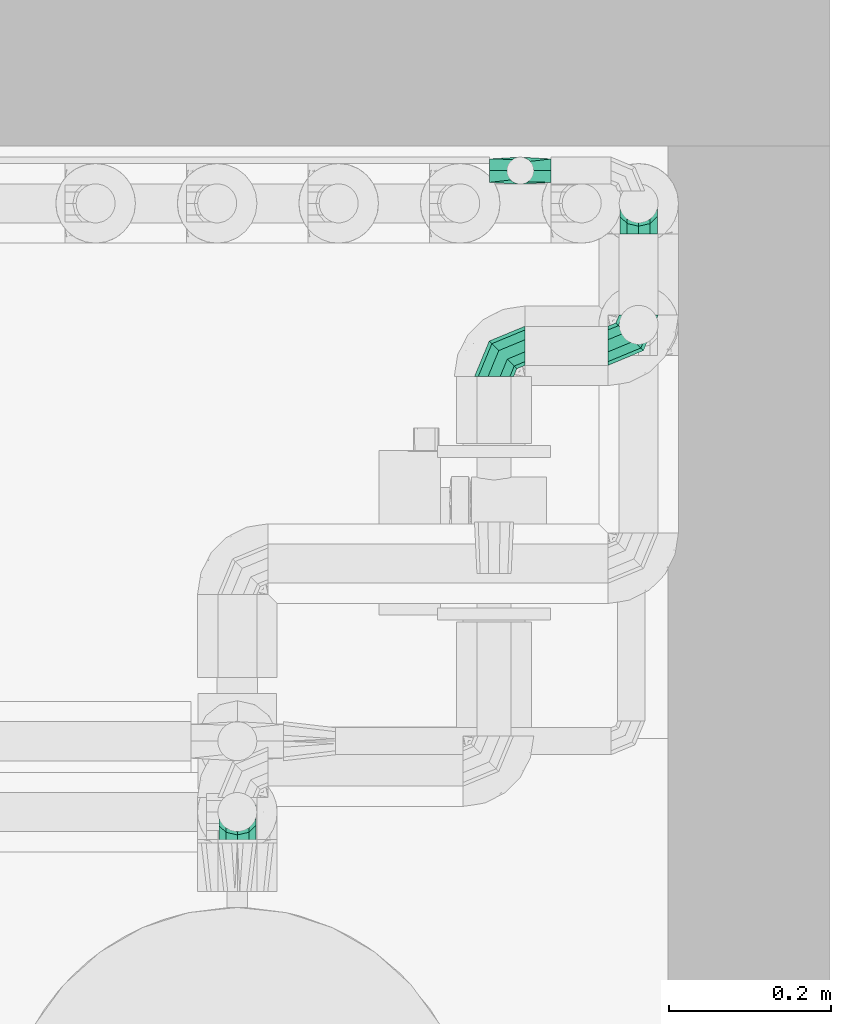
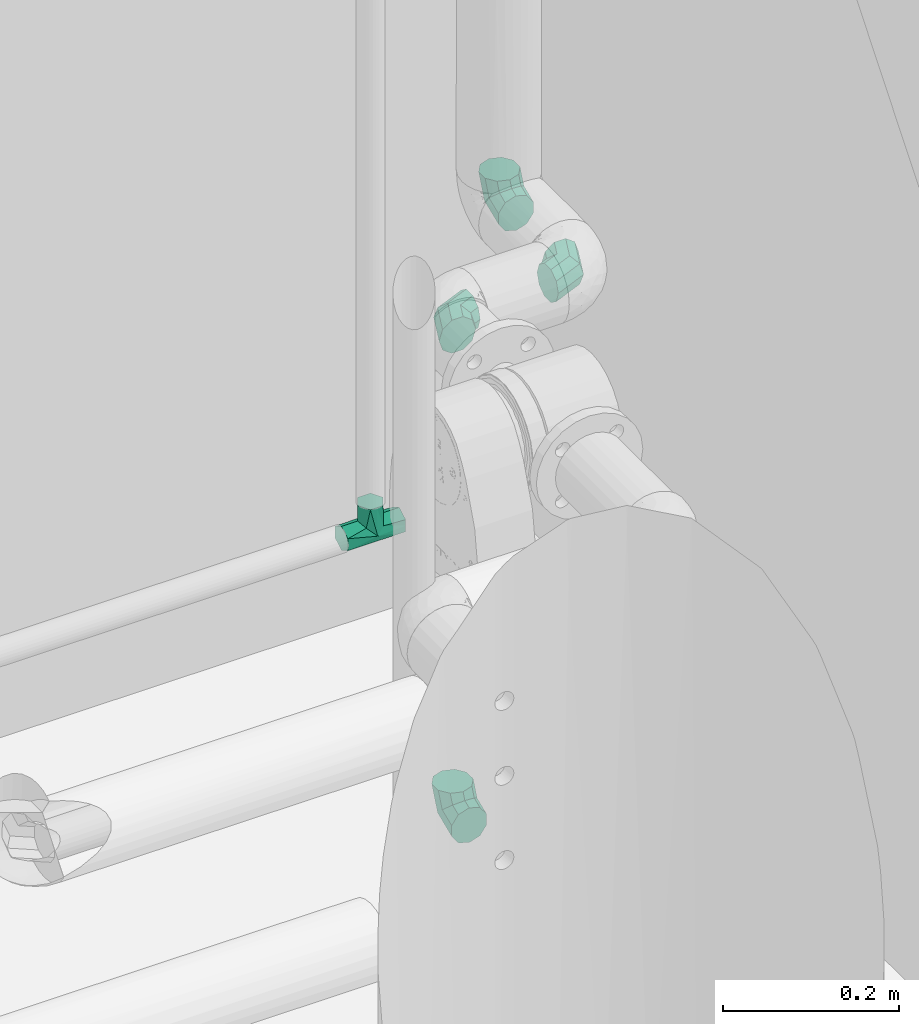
# One storey, part 94 of 94: 5 flow fittings.
"""IFC2X3 building model written with IfcOpenShell, lengths in millimetres."""

from ifc_helpers import new_model, entity, si_unit, converted_unit, derived_unit, direction, frame, origin, place, context, subcontext, project, spatial, faceted_brep, source, transform, mapped, material, type_object, type_shapes, element, save


model = new_model("IFC2X3")

# Units and contexts
model_context = context("Model", 3, precision=0.01, world=origin(), true_north=direction((6.123031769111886e-17, 1.0)))
body_context = subcontext(model_context, "Body", "Model", "MODEL_VIEW")
ifc_project = project(units=[si_unit("LENGTHUNIT", "METRE", prefix="MILLI"), si_unit("AREAUNIT", "SQUARE_METRE"), si_unit("VOLUMEUNIT", "CUBIC_METRE"), converted_unit("PLANEANGLEUNIT", "DEGREE", entity("IfcRatioMeasure", 0.017453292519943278), si_unit("PLANEANGLEUNIT", "RADIAN"), dimensions=[0, 0, 0, 0, 0, 0, 0]), si_unit("MASSUNIT", "GRAM", prefix="KILO"), derived_unit("MASSDENSITYUNIT", [(si_unit("MASSUNIT", "GRAM", prefix="KILO"), 1), (si_unit("LENGTHUNIT", "METRE"), -3)]), derived_unit("IONCONCENTRATIONUNIT", [(si_unit("MASSUNIT", "GRAM", prefix="KILO"), 1), (si_unit("LENGTHUNIT", "METRE"), -3)]), derived_unit("MOMENTOFINERTIAUNIT", [(si_unit("LENGTHUNIT", "METRE"), 4)]), si_unit("TIMEUNIT", "SECOND"), si_unit("FREQUENCYUNIT", "HERTZ"), si_unit("THERMODYNAMICTEMPERATUREUNIT", "DEGREE_CELSIUS"), derived_unit("THERMALTRANSMITTANCEUNIT", [(si_unit("MASSUNIT", "GRAM", prefix="KILO"), 1), (si_unit("THERMODYNAMICTEMPERATUREUNIT", "KELVIN"), -1), (si_unit("TIMEUNIT", "SECOND"), -3)]), derived_unit("THERMALCONDUCTANCEUNIT", [(si_unit("MASSUNIT", "GRAM", prefix="KILO"), 1), (si_unit("THERMODYNAMICTEMPERATUREUNIT", "KELVIN"), -1), (si_unit("TIMEUNIT", "SECOND"), -3), (si_unit("LENGTHUNIT", "METRE"), 1)]), derived_unit("VOLUMETRICFLOWRATEUNIT", [(si_unit("LENGTHUNIT", "METRE"), 3), (si_unit("TIMEUNIT", "SECOND"), -1)]), derived_unit("MASSFLOWRATEUNIT", [(si_unit("MASSUNIT", "GRAM", prefix="KILO"), 1), (si_unit("TIMEUNIT", "SECOND"), -1)]), derived_unit("ROTATIONALFREQUENCYUNIT", [(si_unit("TIMEUNIT", "SECOND"), -1)]), si_unit("ELECTRICCURRENTUNIT", "AMPERE"), si_unit("ELECTRICVOLTAGEUNIT", "VOLT"), si_unit("POWERUNIT", "WATT"), si_unit("FORCEUNIT", "NEWTON", prefix="KILO"), si_unit("ILLUMINANCEUNIT", "LUX"), si_unit("LUMINOUSFLUXUNIT", "LUMEN"), si_unit("LUMINOUSINTENSITYUNIT", "CANDELA"), derived_unit("USERDEFINED", [(si_unit("MASSUNIT", "GRAM", prefix="KILO"), -1), (si_unit("LENGTHUNIT", "METRE"), -2), (si_unit("TIMEUNIT", "SECOND"), 3), (si_unit("LUMINOUSFLUXUNIT", "LUMEN"), 1)]), derived_unit("USERDEFINED", [(si_unit("MASSUNIT", "GRAM", prefix="KILO"), 1), (si_unit("TIMEUNIT", "SECOND"), -3), (si_unit("LENGTHUNIT", "METRE"), 3), (si_unit("ELECTRICCURRENTUNIT", "AMPERE"), -2)]), derived_unit("SOUNDPOWERUNIT", [(si_unit("MASSUNIT", "GRAM", prefix="KILO"), 1), (si_unit("TIMEUNIT", "SECOND"), -3), (si_unit("LENGTHUNIT", "METRE"), 2)]), derived_unit("SOUNDPRESSUREUNIT", [(si_unit("MASSUNIT", "GRAM", prefix="KILO"), 1), (si_unit("LENGTHUNIT", "METRE"), -1), (si_unit("TIMEUNIT", "SECOND"), -2)]), derived_unit("LINEARVELOCITYUNIT", [(si_unit("LENGTHUNIT", "METRE"), 1), (si_unit("TIMEUNIT", "SECOND"), -1)]), si_unit("PRESSUREUNIT", "PASCAL"), derived_unit("USERDEFINED", [(si_unit("MASSUNIT", "GRAM", prefix="KILO"), 1), (si_unit("LENGTHUNIT", "METRE"), -2), (si_unit("TIMEUNIT", "SECOND"), -2)]), derived_unit("LINEARFORCEUNIT", [(si_unit("MASSUNIT", "GRAM", prefix="KILO"), 1), (si_unit("TIMEUNIT", "SECOND"), -2)]), derived_unit("PLANARFORCEUNIT", [(si_unit("MASSUNIT", "GRAM", prefix="KILO"), 1), (si_unit("LENGTHUNIT", "METRE"), -1), (si_unit("TIMEUNIT", "SECOND"), -2)]), derived_unit("SPECIFICHEATCAPACITYUNIT", [(si_unit("THERMODYNAMICTEMPERATUREUNIT", "KELVIN"), -1), (si_unit("LENGTHUNIT", "METRE"), 2), (si_unit("TIMEUNIT", "SECOND"), -2)]), derived_unit("HEATINGVALUEUNIT", [(si_unit("LENGTHUNIT", "METRE"), 2), (si_unit("TIMEUNIT", "SECOND"), -2)]), derived_unit("VAPORPERMEABILITYUNIT", [(si_unit("LENGTHUNIT", "METRE"), -1), (si_unit("TIMEUNIT", "SECOND"), 1)]), derived_unit("DYNAMICVISCOSITYUNIT", [(si_unit("MASSUNIT", "GRAM", prefix="KILO"), 1), (si_unit("TIMEUNIT", "SECOND"), -1), (si_unit("LENGTHUNIT", "METRE"), -1)]), derived_unit("THERMALEXPANSIONCOEFFICIENTUNIT", [(si_unit("THERMODYNAMICTEMPERATUREUNIT", "KELVIN"), -1)]), derived_unit("MODULUSOFELASTICITYUNIT", [(si_unit("MASSUNIT", "GRAM", prefix="KILO"), 1), (si_unit("LENGTHUNIT", "METRE"), -1), (si_unit("TIMEUNIT", "SECOND"), -2)]), derived_unit("ISOTHERMALMOISTURECAPACITYUNIT", [(si_unit("LENGTHUNIT", "METRE"), 3), (si_unit("MASSUNIT", "GRAM", prefix="KILO"), -1)]), derived_unit("MOISTUREDIFFUSIVITYUNIT", [(si_unit("TIMEUNIT", "SECOND"), -1), (si_unit("LENGTHUNIT", "METRE"), 2)])], contexts=[model_context])

# Site, building, storey
site_placement = place(None, origin())
site = spatial("IfcSite", under=ifc_project, at=site_placement, Name="Default", CompositionType="ELEMENT")
building_placement = place(site_placement, origin())
building = spatial("IfcBuilding", under=site, at=building_placement, CompositionType="ELEMENT")
storey_placement = place(building_placement, origin())
storey = spatial("IfcBuildingStorey", under=building, at=storey_placement, Name="Niveau 0", CompositionType="ELEMENT", Elevation=0.0)

# Flow fittings
ifc_material = material(Name="<Unnamed>")
pipe_fitting_type_1 = type_object("IfcPipeFittingType", Name="Coude - Générique:Standard", PredefinedType="NOTDEFINED", material=ifc_material)
shared_shape_1 = source(origin(), body_context, "Body", "Brep", [
    faceted_brep([(5.947327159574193, -5.948105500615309, 0.0), (2.6861946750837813, -2.686546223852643, -14.195013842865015), (19.54273307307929, 37.99744288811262, -14.195013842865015), (24.154972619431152, 37.996839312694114, 0.0), (-5.8515610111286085, 5.8523268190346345, -22.968014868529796), (7.467733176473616, 37.999023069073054, -22.968014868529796), (-16.4048074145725, 16.40695435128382, -22.96801486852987), (-7.457787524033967, 38.000976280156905, -22.96801486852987), (-24.942563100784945, 24.945827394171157, -14.195013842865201), (-19.532787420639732, 38.002556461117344, -14.195013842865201), (-28.203695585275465, 28.20738667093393, 0.0), (-24.145026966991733, 38.00316003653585, 0.0), (-24.942563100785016, 24.94582739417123, 14.195013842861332), (-19.53278742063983, 38.002556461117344, 14.195013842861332), (-16.40480741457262, 16.40695435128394, 22.968014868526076), (-7.457787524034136, 38.000976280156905, 22.968014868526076), (-5.851561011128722, 5.852326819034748, 22.968014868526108), (7.467733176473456, 37.999023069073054, 22.968014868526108), (2.6861946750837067, -2.686546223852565, 14.195013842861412), (19.542733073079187, 37.99744288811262, 14.195013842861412), (-38.0, -24.150000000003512, 0.0), (-38.0, -19.53776041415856, -14.195013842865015), (-38.0, -7.462760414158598, -22.968014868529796), (-38.0, 7.462760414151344, -22.96801486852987), (-38.0, 19.537760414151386, -14.195013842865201), (-38.0, 24.14999999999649, 0.0), (-38.0, 19.537760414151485, 14.195013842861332), (-38.0, 7.462760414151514, 22.968014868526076), (-38.0, -7.4627604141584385, 22.968014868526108), (-38.0, -19.537760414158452, 14.195013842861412)], [[[0, 1, 2, 3]], [[1, 4, 5, 2]], [[4, 6, 7, 5]], [[6, 8, 9, 7]], [[8, 10, 11, 9]], [[10, 12, 13, 11]], [[12, 14, 15, 13]], [[14, 16, 17, 15]], [[16, 18, 19, 17]], [[18, 0, 3, 19]], [[20, 21, 1, 0]], [[21, 22, 4, 1]], [[22, 23, 6, 4]], [[23, 24, 8, 6]], [[24, 25, 10, 8]], [[25, 26, 12, 10]], [[26, 27, 14, 12]], [[27, 28, 16, 14]], [[28, 29, 18, 16]], [[29, 20, 0, 18]], [[3, 2, 5, 7, 9, 11, 13, 15, 17, 19]], [[29, 28, 27, 26, 25, 24, 23, 22, 21, 20]]]),
])
type_shapes(pipe_fitting_type_1, [shared_shape_1])
flow_fitting_1_placement = place(storey_placement, frame((-6284.234460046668, 9275.477679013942, 357.8782212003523), z_axis=(1.0, 0.0, 0.0), x_axis=(0.0, 0.9999999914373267, 0.00013086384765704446)))
element("IfcFlowFitting", 1, at=flow_fitting_1_placement, inside=storey, type_object=pipe_fitting_type_1, material=ifc_material, Name="Coude - Générique:Standard", ObjectType="Coude - Générique:Standard", context=body_context, shape_type="MappedRepresentation", body=[
    mapped(shared_shape_1, transform((0.0, 0.0, 0.0), scale=1.0)),
])
pipe_fitting_type_2 = type_object("IfcPipeFittingType", Name="Coude - Générique:Standard", PredefinedType="NOTDEFINED", material=ifc_material)
shared_shape_2 = source(origin(), body_context, "Body", "Brep", [
    faceted_brep([(5.946724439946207, -5.946770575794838, 0.0), (2.6853912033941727, -2.68541203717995, -14.195013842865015), (19.538055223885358, 37.999848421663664, -14.195013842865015), (24.15029480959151, 37.99981263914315, 0.0), (-5.852890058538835, 5.852935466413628, -22.968014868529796), (7.463055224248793, 37.99994210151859, -22.968014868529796), (-16.406786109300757, 16.40691339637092, -22.96801486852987), (-7.462465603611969, 38.000057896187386, -22.96801486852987), (-24.945067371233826, 24.94526089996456, -14.195013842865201), (-19.537465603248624, 38.00015157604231, -14.195013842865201), (-28.206400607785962, 28.206619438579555, 0.0), (-24.14970518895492, 38.000187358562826, 0.0), (-24.945067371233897, 24.94526089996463, 14.195013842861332), (-19.537465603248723, 38.00015157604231, 14.195013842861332), (-16.406786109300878, 16.406913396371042, 22.968014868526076), (-7.462465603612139, 38.000057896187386, 22.968014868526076), (-5.852890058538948, 5.852935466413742, 22.968014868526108), (7.463055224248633, 37.99994210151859, 22.968014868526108), (2.685391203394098, -2.6854120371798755, 14.195013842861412), (19.538055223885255, 37.999848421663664, 14.195013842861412), (-38.0, -24.150000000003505, 0.0), (-38.0, -19.53776041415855, -14.195013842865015), (-38.0, -7.462760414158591, -22.968014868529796), (-38.0, 7.462760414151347, -22.96801486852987), (-38.0, 19.537760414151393, -14.195013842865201), (-38.0, 24.149999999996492, 0.0), (-38.0, 19.537760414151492, 14.195013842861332), (-38.0, 7.462760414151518, 22.968014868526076), (-38.0, -7.462760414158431, 22.968014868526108), (-38.0, -19.537760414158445, 14.195013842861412)], [[[0, 1, 2, 3]], [[1, 4, 5, 2]], [[4, 6, 7, 5]], [[6, 8, 9, 7]], [[8, 10, 11, 9]], [[10, 12, 13, 11]], [[12, 14, 15, 13]], [[14, 16, 17, 15]], [[16, 18, 19, 17]], [[18, 0, 3, 19]], [[20, 21, 1, 0]], [[21, 22, 4, 1]], [[22, 23, 6, 4]], [[23, 24, 8, 6]], [[24, 25, 10, 8]], [[25, 26, 12, 10]], [[26, 27, 14, 12]], [[27, 28, 16, 14]], [[28, 29, 18, 16]], [[29, 20, 0, 18]], [[3, 2, 5, 7, 9, 11, 13, 15, 17, 19]], [[29, 28, 27, 26, 25, 24, 23, 22, 21, 20]]]),
])
type_shapes(pipe_fitting_type_2, [shared_shape_2])
flow_fitting_2_placement = place(storey_placement, frame((-5788.884962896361, 10026.846494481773, 578.8746030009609), z_axis=(-1.0, 9.83538293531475e-07, -7.677721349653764e-06), x_axis=(7.677721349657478e-06, 0.0, -1.0)))
element("IfcFlowFitting", 2, at=flow_fitting_2_placement, inside=storey, type_object=pipe_fitting_type_2, material=ifc_material, Name="Coude - Générique:Standard", ObjectType="Coude - Générique:Standard", context=body_context, shape_type="MappedRepresentation", body=[
    mapped(shared_shape_2, transform((0.0, 0.0, 0.0), scale=1.0)),
])
pipe_fitting_type_3 = type_object("IfcPipeFittingType", Name="Coude - Générique:Standard", PredefinedType="NOTDEFINED", material=ifc_material)
shared_shape_3 = source(origin(), body_context, "Body", "Brep", [
    faceted_brep([(5.9466856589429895, -5.946684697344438, 0.0), (2.6853395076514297, -2.6853390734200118, -14.195013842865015), (19.53775426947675, 38.0000031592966, -14.195013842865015), (24.14999385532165, 38.00000390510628, 0.0), (-5.8529755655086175, 5.85297461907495, -22.968014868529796), (7.462754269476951, 38.000001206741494, -22.968014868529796), (-16.406913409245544, 16.406910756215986, -22.96801486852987), (-7.4627665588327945, 37.99999879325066, -22.96801486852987), (-24.945228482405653, 24.945224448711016, -14.195013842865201), (-19.537766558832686, 37.99999684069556, -14.195013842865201), (-28.206574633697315, 28.206570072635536, 0.0), (-24.150006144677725, 37.99999609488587, 0.0), (-24.94522848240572, 24.945224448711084, 14.195013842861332), (-19.537766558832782, 37.99999684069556, 14.195013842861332), (-16.406913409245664, 16.406910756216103, 22.968014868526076), (-7.462766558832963, 37.99999879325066, 22.968014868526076), (-5.852975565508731, 5.852974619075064, 22.968014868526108), (7.462754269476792, 38.000001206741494, 22.968014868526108), (2.6853395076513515, -2.685339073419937, 14.195013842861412), (19.537754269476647, 38.0000031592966, 14.195013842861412), (-38.0, -24.15000000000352, 0.0), (-38.0, -19.53776041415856, -14.195013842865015), (-38.0, -7.462760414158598, -22.968014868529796), (-38.0, 7.462760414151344, -22.96801486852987), (-38.0, 19.537760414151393, -14.195013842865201), (-38.0, 24.149999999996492, 0.0), (-38.0, 19.537760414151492, 14.195013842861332), (-38.0, 7.462760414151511, 22.968014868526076), (-38.0, -7.4627604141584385, 22.968014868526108), (-38.0, -19.537760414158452, 14.195013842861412)], [[[0, 1, 2, 3]], [[1, 4, 5, 2]], [[4, 6, 7, 5]], [[6, 8, 9, 7]], [[8, 10, 11, 9]], [[10, 12, 13, 11]], [[12, 14, 15, 13]], [[14, 16, 17, 15]], [[16, 18, 19, 17]], [[18, 0, 3, 19]], [[20, 21, 1, 0]], [[21, 22, 4, 1]], [[22, 23, 6, 4]], [[23, 24, 8, 6]], [[24, 25, 10, 8]], [[25, 26, 12, 10]], [[26, 27, 14, 12]], [[27, 28, 16, 14]], [[28, 29, 18, 16]], [[29, 20, 0, 18]], [[3, 2, 5, 7, 9, 11, 13, 15, 17, 19]], [[29, 28, 27, 26, 25, 24, 23, 22, 21, 20]]]),
])
type_shapes(pipe_fitting_type_3, [shared_shape_3])
flow_fitting_3_placement = place(storey_placement, frame((-5788.884978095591, 9850.970439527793, 578.8725052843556), z_axis=(0.00011396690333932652, -7.75815515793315e-06, 0.999999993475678), x_axis=(0.9999999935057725, 0.0, -0.0001139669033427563)))
element("IfcFlowFitting", 3, at=flow_fitting_3_placement, inside=storey, type_object=pipe_fitting_type_3, material=ifc_material, Name="Coude - Générique:Standard", ObjectType="Coude - Générique:Standard", context=body_context, shape_type="MappedRepresentation", body=[
    mapped(shared_shape_3, transform((0.0, 0.0, 0.0), scale=1.0)),
])
pipe_fitting_type_4 = type_object("IfcPipeFittingType", Name="Coude - Générique:Standard", PredefinedType="NOTDEFINED", material=ifc_material)
shared_shape_4 = source(origin(), body_context, "Body", "Brep", [
    faceted_brep([(5.946682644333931, -5.9466780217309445, 0.0), (2.6853354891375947, -2.6853334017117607, -14.195013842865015), (19.537730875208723, 38.0000151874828, -14.195013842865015), (24.14997046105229, 38.00001877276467, 0.0), (-5.852982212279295, 5.852977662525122, -22.968014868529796), (7.462730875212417, 38.00000580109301, -22.968014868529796), (-16.406923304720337, 16.406910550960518, -22.96801486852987), (-7.462789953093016, 37.99999419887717, -22.96801486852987), (-24.945241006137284, 24.945221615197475, -14.195013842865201), (-19.53778995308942, 37.99998481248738, -14.195013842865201), (-28.206588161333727, 28.20656623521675, 0.0), (-24.150029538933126, 37.99998122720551, 0.0), (-24.94524100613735, 24.945221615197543, 14.195013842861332), (-19.537789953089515, 37.99998481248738, 14.195013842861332), (-16.406923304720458, 16.40691055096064, 22.968014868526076), (-7.462789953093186, 37.99999419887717, 22.968014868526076), (-5.8529822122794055, 5.852977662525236, 22.968014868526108), (7.462730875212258, 38.00000580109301, 22.968014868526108), (2.68533548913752, -2.685333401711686, 14.195013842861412), (19.53773087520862, 38.0000151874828, 14.195013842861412), (-38.0, -24.150000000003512, 0.0), (-38.0, -19.53776041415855, -14.195013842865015), (-38.0, -7.462760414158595, -22.968014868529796), (-38.0, 7.462760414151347, -22.96801486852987), (-38.0, 19.537760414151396, -14.195013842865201), (-38.0, 24.1499999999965, 0.0), (-38.0, 19.537760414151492, 14.195013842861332), (-38.0, 7.462760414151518, 22.968014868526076), (-38.0, -7.462760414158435, 22.968014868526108), (-38.0, -19.537760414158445, 14.195013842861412)], [[[0, 1, 2, 3]], [[1, 4, 5, 2]], [[4, 6, 7, 5]], [[6, 8, 9, 7]], [[8, 10, 11, 9]], [[10, 12, 13, 11]], [[12, 14, 15, 13]], [[14, 16, 17, 15]], [[16, 18, 19, 17]], [[18, 0, 3, 19]], [[20, 21, 1, 0]], [[21, 22, 4, 1]], [[22, 23, 6, 4]], [[23, 24, 8, 6]], [[24, 25, 10, 8]], [[25, 26, 12, 10]], [[26, 27, 14, 12]], [[27, 28, 16, 14]], [[28, 29, 18, 16]], [[29, 20, 0, 18]], [[3, 2, 5, 7, 9, 11, 13, 15, 17, 19]], [[29, 28, 27, 26, 25, 24, 23, 22, 21, 20]]]),
])
type_shapes(pipe_fitting_type_4, [shared_shape_4])
flow_fitting_4_placement = place(storey_placement, frame((-5967.407473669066, 9850.970439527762, 578.892850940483), z_axis=(0.00011396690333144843, 0.0, 0.9999999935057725), x_axis=(-0.9999999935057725, 0.0, 0.00011396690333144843)))
element("IfcFlowFitting", 4, at=flow_fitting_4_placement, inside=storey, type_object=pipe_fitting_type_4, material=ifc_material, Name="Coude - Générique:Standard", ObjectType="Coude - Générique:Standard", context=body_context, shape_type="MappedRepresentation", body=[
    mapped(shared_shape_4, transform((0.0, 0.0, 0.0), scale=1.0)),
])
pipe_fitting_type_5 = type_object("IfcPipeFittingType", Name="Té - Générique:Standard", PredefinedType="NOTDEFINED", material=ifc_material)
shared_shape_5 = source(origin(), body_context, "Body", "Brep", [
    faceted_brep([(-38.0, 8.34999999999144, 14.462624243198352), (-38.0, 12.524999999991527, 7.231312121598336), (-38.0, 16.699999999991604, 0.0), (-38.0, 12.524999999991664, -7.231312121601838), (-38.0, 8.349999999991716, -14.46262424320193), (-38.0, 0.0, -14.462624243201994), (-38.0, -8.350000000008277, -14.46262424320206), (-38.0, -12.525000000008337, -7.231312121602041), (-38.0, -16.700000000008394, 0.0), (-38.0, -14.612500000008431, 3.615656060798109), (-38.0, -12.52500000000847, 7.231312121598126), (-38.0, -8.350000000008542, 14.462624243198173), (-38.0, 0.0, 14.462624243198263), (38.0, 0.0, -14.462624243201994), (38.0, 8.349999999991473, -14.46262424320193), (38.0, 12.957343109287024, -6.4824718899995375), (38.0, 16.699999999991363, 0.0), (38.0, 12.524999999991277, 7.2313121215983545), (38.0, 8.349999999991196, 14.462624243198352), (38.0, 0.0, 14.462624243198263), (38.0, -8.350000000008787, 14.462624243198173), (38.0, -12.525000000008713, 7.231312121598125), (38.0, -16.700000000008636, 0.0), (38.0, -14.612500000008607, -3.6156560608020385), (38.0, -12.525000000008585, -7.23131212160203), (38.0, -8.350000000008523, -14.46262424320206), (14.40915064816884, -14.409150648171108, 5.74536277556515), (12.118301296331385, -12.118301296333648, 11.49072555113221), (0.0, 0.0, 16.699999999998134), (-13.186617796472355, -13.18661779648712, 6.620121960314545), (-9.360037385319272, -9.360037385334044, 13.830390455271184), (16.700000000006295, -16.70000000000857, 0.0), (-16.699999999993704, -16.700000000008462, 0.0), (-13.030018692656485, -13.030018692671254, 6.915195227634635), (13.186617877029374, -13.186617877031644, -6.620121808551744), (13.030018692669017, -13.030018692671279, -6.9151952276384), (9.360037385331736, -9.360037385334, -13.830390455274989), (-14.40915064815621, -14.409150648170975, -5.745362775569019), (0.0, 0.0, -16.700000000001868), (-12.118301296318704, -12.118301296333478, -11.490725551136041), (8.350000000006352, -38.0, -14.462624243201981), (12.957343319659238, -38.0, -6.482471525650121), (16.700000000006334, -38.0, 0.0), (12.525000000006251, -38.0, 7.231312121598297), (8.350000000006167, -38.0, 14.462624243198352), (0.0, -38.0, 14.462624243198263), (-8.349999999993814, -38.0, 14.462624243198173), (-12.957343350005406, -38.0, 6.482471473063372), (-16.699999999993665, -38.0, 0.0), (-12.524999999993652, -38.0, -7.231312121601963), (-8.349999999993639, -38.0, -14.462624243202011), (0.0, -38.0, -14.462624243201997)], [[[0, 1, 2, 3, 4, 5, 6, 7, 8, 9, 10, 11, 12]], [[13, 14, 15, 16, 17, 18, 19, 20, 21, 22, 23, 24, 25]], [[26, 22, 21]], [[27, 21, 20]], [[28, 20, 19, 18]], [[29, 10, 9]], [[10, 30, 11]], [[22, 26, 31]], [[8, 32, 9]], [[21, 27, 26]], [[20, 28, 27]], [[10, 29, 33, 30]], [[2, 1, 0, 18, 17, 16]], [[30, 12, 11]], [[30, 28, 12]], [[0, 28, 18]], [[32, 29, 9]], [[28, 0, 12]], [[4, 3, 2, 16, 15, 14]], [[24, 34, 35, 36]], [[8, 37, 32]], [[4, 14, 38]], [[7, 39, 37]], [[5, 4, 38, 6]], [[34, 24, 23]], [[13, 25, 36]], [[31, 23, 22]], [[36, 25, 24]], [[39, 6, 38]], [[31, 34, 23]], [[7, 37, 8]], [[38, 14, 13]], [[39, 7, 6]], [[36, 38, 13]], [[40, 41, 42, 43, 44, 45, 46, 47, 48, 49, 50, 51]], [[33, 46, 30]], [[32, 48, 47]], [[47, 33, 29, 32]], [[30, 46, 45]], [[27, 44, 43]], [[31, 43, 42]], [[46, 33, 47]], [[30, 45, 28]], [[43, 31, 26, 27]], [[28, 45, 44]], [[28, 44, 27]], [[35, 40, 36]], [[31, 42, 41]], [[41, 35, 34, 31]], [[36, 40, 51]], [[38, 50, 39]], [[32, 49, 48]], [[39, 50, 49]], [[40, 35, 41]], [[36, 51, 38]], [[49, 32, 37, 39]], [[38, 51, 50]]]),
])
type_shapes(pipe_fitting_type_5, [shared_shape_5])
flow_fitting_5_placement = place(storey_placement, frame((-5934.90298699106, 10067.197731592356, 144.0), z_axis=(0.0, 1.0, 0.0), x_axis=(1.0, 0.0, 0.0)))
element("IfcFlowFitting", 5, at=flow_fitting_5_placement, inside=storey, type_object=pipe_fitting_type_5, material=ifc_material, Name="Té - Générique:Standard", ObjectType="Té - Générique:Standard", context=body_context, shape_type="MappedRepresentation", body=[
    mapped(shared_shape_5, transform((0.0, 0.0, 0.0), scale=1.0)),
])

save(model, "model.ifc")
